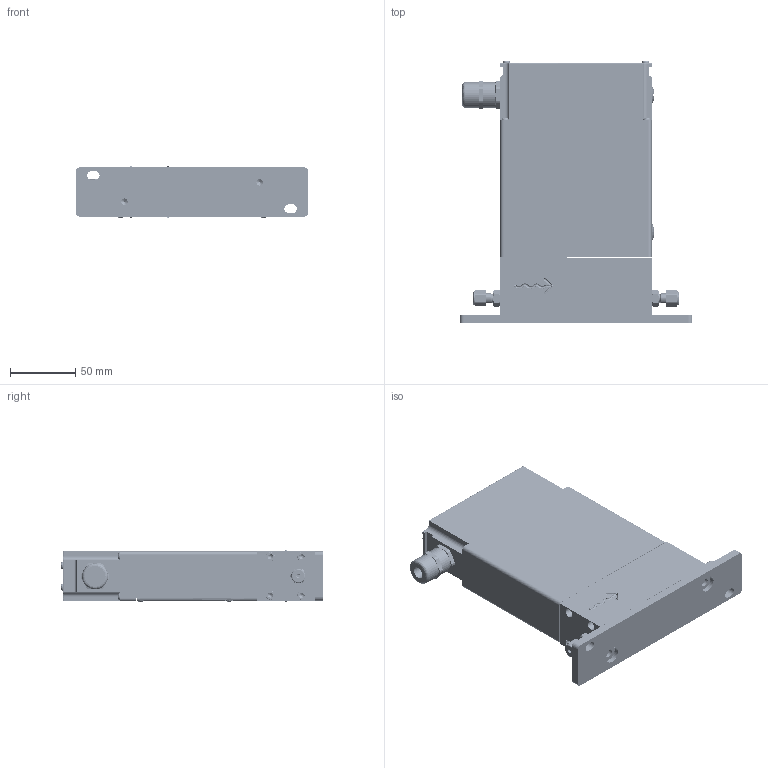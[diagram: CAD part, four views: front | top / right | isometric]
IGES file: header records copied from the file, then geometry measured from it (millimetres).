
Start section: SolidWorks IGES file using analytic representation for surfaces
Global section: file name: G:\Engineering\CAD MODELS FOR SALES\CAD MODEL STORAGE\QMB\Customer Files\IGES\QMC-C-B-C-1D-3-A.IGS; native system: SolidWorks 2023; preprocessor: SolidWorks 2023; author: CFehr; date: 250120.111733; units: inch
Bounding box: 177.8 x 201.07 x 39.69 mm (x, y, z)
Surface area: 208090.4 mm2 (no closed solid volume)
Topology: 0 solids, 0 shells, 2596 faces, 39513 edges, 39415 vertices
Faces by surface type: revolution 1666, bspline 930
